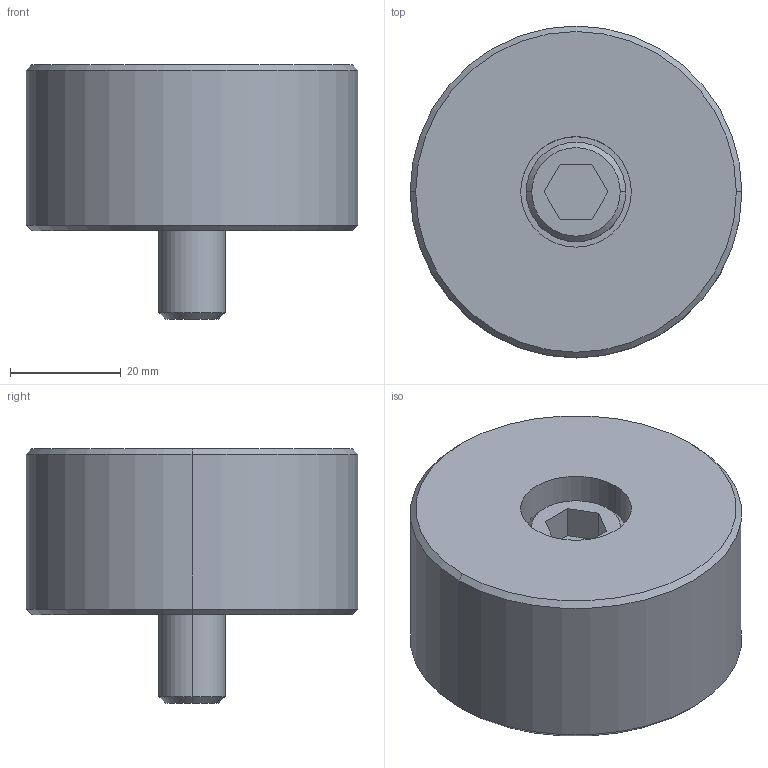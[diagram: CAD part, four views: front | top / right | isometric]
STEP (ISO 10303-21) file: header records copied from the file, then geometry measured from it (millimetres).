
FILE_DESCRIPTION((''),'2;1');
FILE_NAME('','2010-08-30T16:49:23+09:00',('misumi'),(''),'M/STEP i/f 1R2-14','CADmeister v5.1','');
FILE_SCHEMA(('AUTOMOTIVE_DESIGN'));
Length unit declared in the file: millimetre
Products named in the file (1): DEB60-30-R
Bounding box: 60 x 60 x 46 mm (x, y, z)
Volume: 83329.3 mm3; surface area: 14863 mm2
Topology: 2 solids, 2 shells, 31 faces, 64 edges, 40 vertices
Faces by surface type: plane 13, cylinder 10, cone 8
Entity records: 924 total; most frequent: DIRECTION 156, CARTESIAN_POINT 136, ORIENTED_EDGE 128, EDGE_CURVE 64, AXIS2_PLACEMENT_3D 60, VERTEX_POINT 40, LINE 36, VECTOR 36
